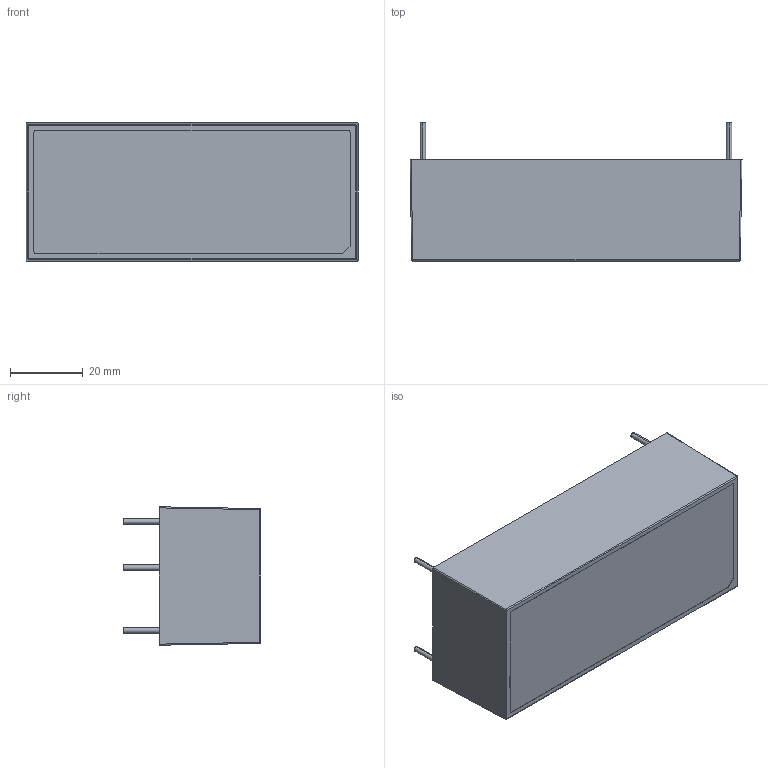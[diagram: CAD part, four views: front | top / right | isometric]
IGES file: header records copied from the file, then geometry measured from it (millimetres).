
Start section: SolidWorks IGES file using analytic representation for surfaces
Global section: file name: C:\Users\ksmith.XPNA\Desktop\ECE60\ECE60\ECE60 IGES.IGS; native system: SolidWorks 2015; preprocessor: SolidWorks 2015; author: ksmith; date: 141210.144759; units: inch
Bounding box: 91.4 x 37.95 x 38.1 mm (x, y, z)
Surface area: 35825.5 mm2 (no closed solid volume)
Topology: 0 solids, 0 shells, 207 faces, 1853 edges, 1853 vertices
Faces by surface type: bspline 164, revolution 43
